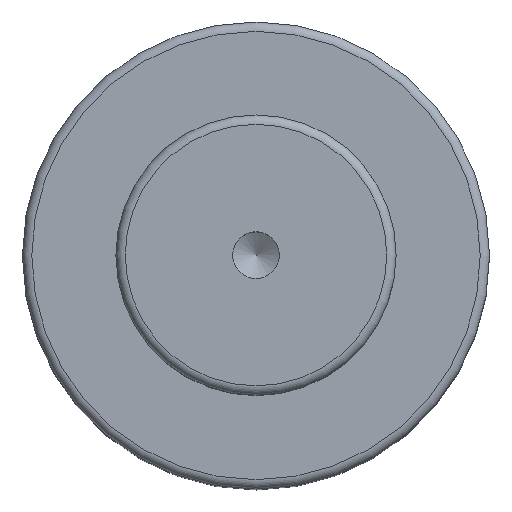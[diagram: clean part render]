
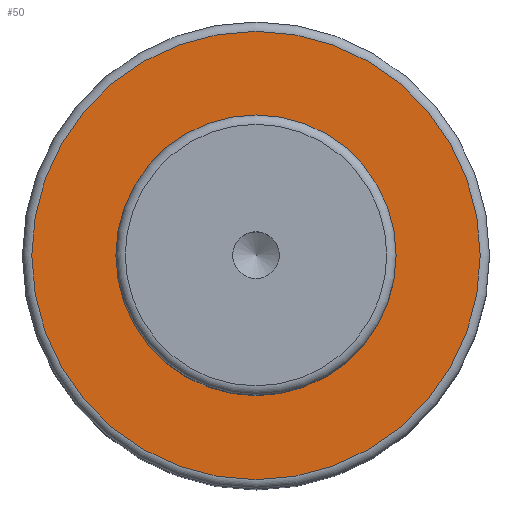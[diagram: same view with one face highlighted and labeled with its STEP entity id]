
A CAD part, top view. The second image highlights one B-rep face of the part: STEP entity #50.
In plain terms, the highlighted planar face has unit normal (0, 0, 1).
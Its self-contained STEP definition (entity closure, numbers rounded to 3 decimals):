
#40=PLANE('',#179);
#50=ADVANCED_FACE('',(#72,#73),#40,.F.);
#72=FACE_BOUND('',#96,.T.);
#73=FACE_BOUND('',#97,.T.);
#96=EDGE_LOOP('',(#118));
#97=EDGE_LOOP('',(#119));
#118=ORIENTED_EDGE('',*,*,#149,.F.);
#119=ORIENTED_EDGE('',*,*,#148,.T.);
#135=VERTEX_POINT('',#256);
#136=VERTEX_POINT('',#259);
#148=EDGE_CURVE('',#135,#135,#159,.T.);
#149=EDGE_CURVE('',#136,#136,#160,.T.);
#159=CIRCLE('',#176,15.);
#160=CIRCLE('',#178,24.);
#176=AXIS2_PLACEMENT_3D('',#255,#213,#214);
#178=AXIS2_PLACEMENT_3D('',#258,#217,#218);
#179=AXIS2_PLACEMENT_3D('',#260,#219,#220);
#213=DIRECTION('',(0.,0.,-1.));
#214=DIRECTION('',(-1.,0.,0.));
#217=DIRECTION('',(0.,0.,-1.));
#218=DIRECTION('',(-1.,0.,0.));
#219=DIRECTION('',(0.,0.,-1.));
#220=DIRECTION('',(-1.,0.,0.));
#255=CARTESIAN_POINT('',(0.,0.,59.));
#256=CARTESIAN_POINT('',(-15.,0.,59.));
#258=CARTESIAN_POINT('',(0.,0.,59.));
#259=CARTESIAN_POINT('',(-24.,0.,59.));
#260=CARTESIAN_POINT('',(15.,0.,59.));
